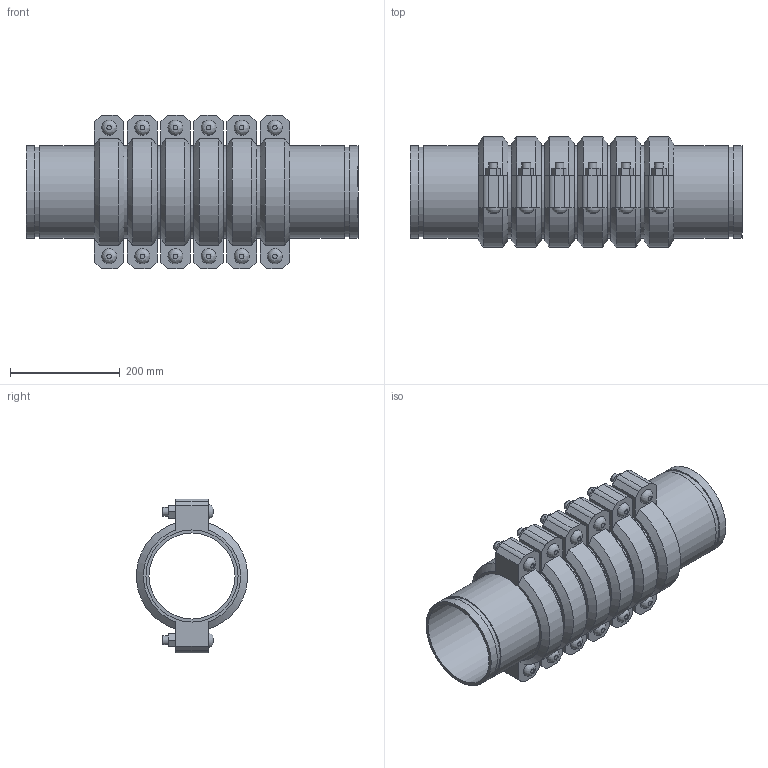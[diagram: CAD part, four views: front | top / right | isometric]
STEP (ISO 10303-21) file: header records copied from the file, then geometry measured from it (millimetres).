
FILE_DESCRIPTION(/* description */ ('VIC EXPANSION JOINT 6 COUPLINGS COMPRESSED STYLE 155 (OGS)','CAx-IF Rec.Pracs.---Representation and Presentation of Product Manufacturing Information (PMI)---4.0---2014-10-13'),/* implementation_level */ '2;1');
FILE_NAME(/* name */ 'C:\Users\kkamble\AppData\Roaming\Autodesk\ApplicationPlugins\Victaulic.Temp\A354\Victaulic_IPS_Expansion Joint_Compressed_6 Couplings_Style 155 (OGS)_6 (150).stp',/* time_stamp */ '2021-06-27T00:32:05+02:00',/* author */ ('kkamble'),/* organization */ ('Victaulic'),/* preprocessor_version */ 'ST-DEVELOPER v17.2',/* originating_system */ 'Autodesk Inventor 2019',/* authorisation */ '');
FILE_SCHEMA (('AP242_MANAGED_MODEL_BASED_3D_ENGINEERING_MIM_LF { 1 0 10303 442 1 1 4 }'));
Length unit declared in the file: inch
Products named in the file (4): 155-06.0; Nipple-06.0; Nipple-06.0_1; 075_6_Coup-06.0
Assembly tree (13 placements, depth 2):
  155-06.0
    Nipple-06.0  x2
    Nipple-06.0_1  x5
    075_6_Coup-06.0  x6
Bounding box: 606.3 x 202.46 x 281.18 mm (x, y, z)
Volume: 6068035.2 mm3; surface area: 1366045.4 mm2
Topology: 13 solids, 25 shells, 426 faces, 1008 edges, 708 vertices
Faces by surface type: plane 258, cylinder 132, cone 24, bspline 12
Full cylindrical faces by diameter (mm): 15.875 x24, 17.424 x12, 157.15 x7, 161.925 x6, 163.957 x14, 168.275 x33
Entity records: 2826 total; most frequent: CARTESIAN_POINT 497, DIRECTION 469, ORIENTED_EDGE 386, EDGE_CURVE 193, AXIS2_PLACEMENT_3D 188, VERTEX_POINT 138, EDGE_LOOP 107, LINE 93
